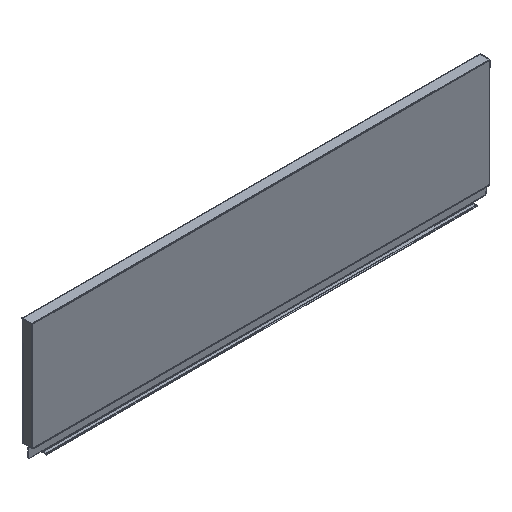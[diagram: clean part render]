
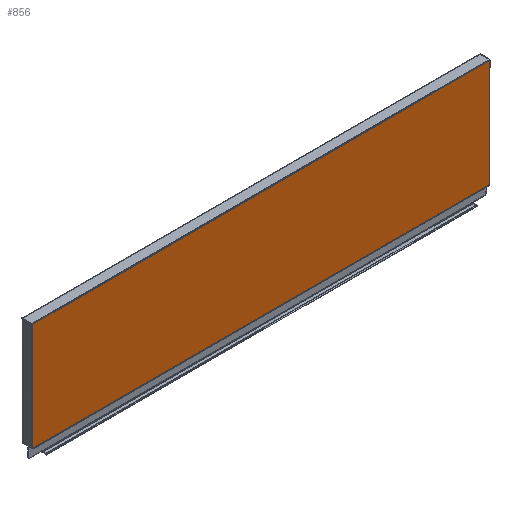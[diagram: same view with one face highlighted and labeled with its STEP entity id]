
A CAD part, isometric view. The second image highlights one B-rep face of the part: STEP entity #856.
In plain terms, the highlighted planar face has unit normal (0, -1, 0).
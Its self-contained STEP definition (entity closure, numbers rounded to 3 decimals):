
#29 = VERTEX_POINT ( 'NONE', #427 ) ;
#34 = VERTEX_POINT ( 'NONE', #426 ) ;
#38 = VERTEX_POINT ( 'NONE', #425 ) ;
#43 = VERTEX_POINT ( 'NONE', #424 ) ;
#53 = VERTEX_POINT ( 'NONE', #422 ) ;
#57 = VERTEX_POINT ( 'NONE', #421 ) ;
#65 = VERTEX_POINT ( 'NONE', #419 ) ;
#69 = VERTEX_POINT ( 'NONE', #418 ) ;
#152 = VERTEX_POINT ( 'NONE', #401 ) ;
#157 = VERTEX_POINT ( 'NONE', #400 ) ;
#400 = CARTESIAN_POINT ( 'NONE',  ( -354., -6., 184. ) ) ;
#401 = CARTESIAN_POINT ( 'NONE',  ( 354., -6., 184. ) ) ;
#418 = CARTESIAN_POINT ( 'NONE',  ( -353.5, -6., 17.5 ) ) ;
#419 = CARTESIAN_POINT ( 'NONE',  ( -353.5, -6., 17. ) ) ;
#421 = CARTESIAN_POINT ( 'NONE',  ( 353.5, -6., 17. ) ) ;
#422 = CARTESIAN_POINT ( 'NONE',  ( 353.5, -6., 17.5 ) ) ;
#424 = CARTESIAN_POINT ( 'NONE',  ( -354., -6., 183.5 ) ) ;
#425 = CARTESIAN_POINT ( 'NONE',  ( -354., -6., 17.5 ) ) ;
#426 = CARTESIAN_POINT ( 'NONE',  ( 354., -6., 17.5 ) ) ;
#427 = CARTESIAN_POINT ( 'NONE',  ( 354., -6., 183.5 ) ) ;
#637 = EDGE_CURVE ( 'NONE', #157, #43, #1713, .T. ) ;
#638 = EDGE_CURVE ( 'NONE', #157, #152, #1715, .T. ) ;
#639 = EDGE_CURVE ( 'NONE', #152, #29, #1717, .T. ) ;
#640 = EDGE_CURVE ( 'NONE', #29, #34, #1719, .T. ) ;
#641 = EDGE_CURVE ( 'NONE', #53, #34, #1721, .T. ) ;
#642 = EDGE_CURVE ( 'NONE', #57, #53, #1723, .T. ) ;
#643 = EDGE_CURVE ( 'NONE', #65, #57, #1725, .T. ) ;
#644 = EDGE_CURVE ( 'NONE', #69, #65, #1727, .T. ) ;
#645 = EDGE_CURVE ( 'NONE', #38, #69, #1729, .T. ) ;
#652 = EDGE_CURVE ( 'NONE', #43, #38, #1740, .T. ) ;
#753 = AXIS2_PLACEMENT_3D ( 'NONE', #1128, #1124, #1121 ) ;
#856 = ADVANCED_FACE ( 'NONE', ( #1839 ), #1130, .T. ) ;
#1010 = EDGE_LOOP ( 'NONE', ( #1515, #1514, #1513, #1512, #1511, #1510, #1509, #1508, #1507, #1506 ) ) ;
#1121 = DIRECTION ( 'NONE',  ( 1., 0., 0. ) ) ;
#1124 = DIRECTION ( 'NONE',  ( 0., -1., 0. ) ) ;
#1128 = CARTESIAN_POINT ( 'NONE',  ( -355., -6., 17. ) ) ;
#1130 = PLANE ( 'NONE',  #753 ) ;
#1506 = ORIENTED_EDGE ( 'NONE', *, *, #637, .T. ) ;
#1507 = ORIENTED_EDGE ( 'NONE', *, *, #638, .F. ) ;
#1508 = ORIENTED_EDGE ( 'NONE', *, *, #639, .F. ) ;
#1509 = ORIENTED_EDGE ( 'NONE', *, *, #640, .F. ) ;
#1510 = ORIENTED_EDGE ( 'NONE', *, *, #641, .T. ) ;
#1511 = ORIENTED_EDGE ( 'NONE', *, *, #642, .T. ) ;
#1512 = ORIENTED_EDGE ( 'NONE', *, *, #643, .T. ) ;
#1513 = ORIENTED_EDGE ( 'NONE', *, *, #644, .T. ) ;
#1514 = ORIENTED_EDGE ( 'NONE', *, *, #645, .T. ) ;
#1515 = ORIENTED_EDGE ( 'NONE', *, *, #652, .T. ) ;
#1713 = LINE ( 'NONE', #2057, #1714 ) ;
#1714 = VECTOR ( 'NONE', #2054, 1000. ) ;
#1715 = LINE ( 'NONE', #2090, #1716 ) ;
#1716 = VECTOR ( 'NONE', #2089, 1000. ) ;
#1717 = LINE ( 'NONE', #2088, #1718 ) ;
#1718 = VECTOR ( 'NONE', #2087, 1000. ) ;
#1719 = LINE ( 'NONE', #2085, #1720 ) ;
#1720 = VECTOR ( 'NONE', #2083, 1000. ) ;
#1721 = LINE ( 'NONE', #2082, #1722 ) ;
#1722 = VECTOR ( 'NONE', #2080, 1000. ) ;
#1723 = LINE ( 'NONE', #2079, #1724 ) ;
#1724 = VECTOR ( 'NONE', #2078, 1000. ) ;
#1725 = LINE ( 'NONE', #2076, #1726 ) ;
#1726 = VECTOR ( 'NONE', #2075, 1000. ) ;
#1727 = LINE ( 'NONE', #2073, #1728 ) ;
#1728 = VECTOR ( 'NONE', #2072, 1000. ) ;
#1729 = LINE ( 'NONE', #2070, #1730 ) ;
#1730 = VECTOR ( 'NONE', #2069, 1000. ) ;
#1740 = LINE ( 'NONE', #2035, #1741 ) ;
#1741 = VECTOR ( 'NONE', #2053, 1000. ) ;
#1839 = FACE_OUTER_BOUND ( 'NONE', #1010, .T. ) ;
#2035 = CARTESIAN_POINT ( 'NONE',  ( -354., -6., 202.385 ) ) ;
#2053 = DIRECTION ( 'NONE',  ( 0., 0., -1. ) ) ;
#2054 = DIRECTION ( 'NONE',  ( 0., 0., -1. ) ) ;
#2057 = CARTESIAN_POINT ( 'NONE',  ( -354., -6., 202.385 ) ) ;
#2069 = DIRECTION ( 'NONE',  ( 1., 0., 0. ) ) ;
#2070 = CARTESIAN_POINT ( 'NONE',  ( -355., -6., 17.5 ) ) ;
#2072 = DIRECTION ( 'NONE',  ( 0., 0., -1. ) ) ;
#2073 = CARTESIAN_POINT ( 'NONE',  ( -353.5, -6., 17.5 ) ) ;
#2075 = DIRECTION ( 'NONE',  ( 1., 0., 0. ) ) ;
#2076 = CARTESIAN_POINT ( 'NONE',  ( -355., -6., 17. ) ) ;
#2078 = DIRECTION ( 'NONE',  ( 0., 0., 1. ) ) ;
#2079 = CARTESIAN_POINT ( 'NONE',  ( 353.5, -6., 15.3 ) ) ;
#2080 = DIRECTION ( 'NONE',  ( 1., 0., 0. ) ) ;
#2082 = CARTESIAN_POINT ( 'NONE',  ( 353.5, -6., 17.5 ) ) ;
#2083 = DIRECTION ( 'NONE',  ( 0., 0., -1. ) ) ;
#2085 = CARTESIAN_POINT ( 'NONE',  ( 354., -6., 202.385 ) ) ;
#2087 = DIRECTION ( 'NONE',  ( 0., 0., -1. ) ) ;
#2088 = CARTESIAN_POINT ( 'NONE',  ( 354., -6., 202.385 ) ) ;
#2089 = DIRECTION ( 'NONE',  ( 1., 0., 0. ) ) ;
#2090 = CARTESIAN_POINT ( 'NONE',  ( -355., -6., 184. ) ) ;
